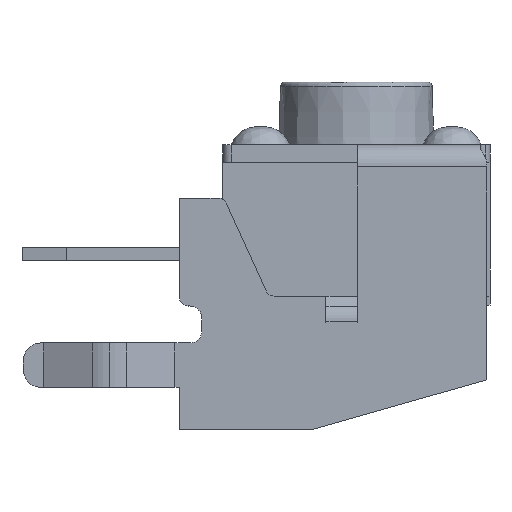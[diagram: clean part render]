
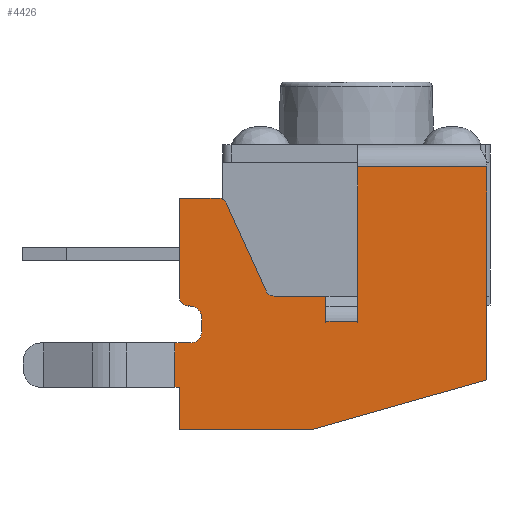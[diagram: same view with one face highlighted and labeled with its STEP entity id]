
A CAD part, front view. The second image highlights one B-rep face of the part: STEP entity #4426.
In plain terms, the highlighted planar face has unit normal (0, -1, 0).
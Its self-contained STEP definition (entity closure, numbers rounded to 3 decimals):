
#342=DIRECTION('',(-1.,0.,0.));
#343=VECTOR('',#342,2.9);
#344=CARTESIAN_POINT('',(-23.172,13.277,1.1));
#345=LINE('',#344,#343);
#390=DIRECTION('',(0.,0.,1.));
#391=VECTOR('',#390,4.779);
#392=CARTESIAN_POINT('',(-23.172,13.277,-3.679));
#393=LINE('',#392,#391);
#445=DIRECTION('',(0.,0.,1.));
#446=VECTOR('',#445,1.);
#447=CARTESIAN_POINT('',(-30.171,13.277,-3.849));
#448=LINE('',#447,#446);
#449=DIRECTION('',(1.,0.,0.));
#450=VECTOR('',#449,0.35);
#451=CARTESIAN_POINT('',(-30.171,13.277,-2.849));
#452=LINE('',#451,#450);
#453=CARTESIAN_POINT('',(-29.822,13.277,-2.599));
#454=DIRECTION('',(0.,-1.,0.));
#455=DIRECTION('',(0.,0.,-1.));
#456=AXIS2_PLACEMENT_3D('',#453,#454,#455);
#458=CARTESIAN_POINT('',(-29.84,13.277,-2.288));
#459=DIRECTION('',(0.,-1.,0.));
#460=DIRECTION('',(1.,0.,0.));
#461=AXIS2_PLACEMENT_3D('',#458,#459,#460);
#463=CARTESIAN_POINT('',(-29.84,13.277,-2.288));
#464=DIRECTION('',(0.,-1.,0.));
#465=DIRECTION('',(0.,0.,1.));
#466=AXIS2_PLACEMENT_3D('',#463,#464,#465);
#468=CARTESIAN_POINT('',(-29.872,13.277,-1.821));
#469=DIRECTION('',(0.,1.,0.));
#470=DIRECTION('',(0.068,0.,-0.998));
#471=AXIS2_PLACEMENT_3D('',#468,#469,#470);
#473=CARTESIAN_POINT('',(-29.872,13.277,-1.821));
#474=DIRECTION('',(0.,1.,0.));
#475=DIRECTION('',(0.,0.,-1.));
#476=AXIS2_PLACEMENT_3D('',#473,#474,#475);
#478=CARTESIAN_POINT('',(-29.2,13.277,0.201));
#479=DIRECTION('',(0.,1.,0.));
#480=DIRECTION('',(0.,0.,1.));
#481=AXIS2_PLACEMENT_3D('',#478,#479,#480);
#483=DIRECTION('',(0.414,0.,-0.91));
#484=VECTOR('',#483,2.159);
#485=CARTESIAN_POINT('',(-29.018,13.277,0.284));
#486=LINE('',#485,#484);
#487=CARTESIAN_POINT('',(-27.943,13.277,-1.599));
#488=DIRECTION('',(0.,-1.,0.));
#489=DIRECTION('',(-0.91,0.,-0.414));
#490=AXIS2_PLACEMENT_3D('',#487,#488,#489);
#492=DIRECTION('',(-0.962,0.,-0.274));
#493=VECTOR('',#492,4.092);
#494=CARTESIAN_POINT('',(-23.172,13.277,-3.679));
#495=LINE('',#494,#493);
#496=DIRECTION('',(-1.,0.,0.));
#497=VECTOR('',#496,0.1);
#498=CARTESIAN_POINT('',(-30.072,13.277,-3.849));
#499=LINE('',#498,#497);
#530=DIRECTION('',(0.,0.,-1.));
#531=VECTOR('',#530,0.31);
#532=CARTESIAN_POINT('',(-29.572,13.277,-2.288));
#533=LINE('',#532,#531);
#554=DIRECTION('',(0.,0.,-1.));
#555=VECTOR('',#554,2.223);
#556=CARTESIAN_POINT('',(-30.072,13.277,0.401));
#557=LINE('',#556,#555);
#566=DIRECTION('',(-1.,0.,0.));
#567=VECTOR('',#566,0.871);
#568=CARTESIAN_POINT('',(-29.2,13.277,0.401));
#569=LINE('',#568,#567);
#586=DIRECTION('',(-1.,0.,0.));
#587=VECTOR('',#586,1.151);
#588=CARTESIAN_POINT('',(-26.792,13.277,-1.799));
#589=LINE('',#588,#587);
#598=DIRECTION('',(0.,0.,1.));
#599=VECTOR('',#598,0.6);
#600=CARTESIAN_POINT('',(-26.792,13.277,-2.399));
#601=LINE('',#600,#599);
#610=DIRECTION('',(-1.,0.,0.));
#611=VECTOR('',#610,0.01);
#612=CARTESIAN_POINT('',(-26.782,13.277,-2.399));
#613=LINE('',#612,#611);
#622=DIRECTION('',(0.,0.,-1.));
#623=VECTOR('',#622,0.041);
#624=CARTESIAN_POINT('',(-26.782,13.277,-2.358));
#625=LINE('',#624,#623);
#686=DIRECTION('',(0.,0.,1.));
#687=VECTOR('',#686,0.041);
#688=CARTESIAN_POINT('',(-26.082,13.277,-2.399));
#689=LINE('',#688,#687);
#690=DIRECTION('',(-1.,0.,0.));
#691=VECTOR('',#690,0.01);
#692=CARTESIAN_POINT('',(-26.072,13.277,-2.399));
#693=LINE('',#692,#691);
#702=DIRECTION('',(0.,0.,-1.));
#703=VECTOR('',#702,3.499);
#704=CARTESIAN_POINT('',(-26.072,13.277,1.1));
#705=LINE('',#704,#703);
#2156=DIRECTION('',(-1.,0.,0.));
#2157=VECTOR('',#2156,0.7);
#2158=CARTESIAN_POINT('',(-26.082,13.277,
-2.358));
#2159=LINE('',#2158,#2157);
#2450=DIRECTION('',(1.,0.,0.));
#2451=VECTOR('',#2450,2.964);
#2452=CARTESIAN_POINT('',(-30.072,13.277,
-4.799));
#2453=LINE('',#2452,#2451);
#2466=DIRECTION('',(0.,0.,-1.));
#2467=VECTOR('',#2466,0.95);
#2468=CARTESIAN_POINT('',(-30.072,13.277,
-3.849));
#2469=LINE('',#2468,#2467);
#3115=CARTESIAN_POINT('',(-30.171,13.277,
-3.849));
#3116=CARTESIAN_POINT('',(-30.171,13.277,
-2.849));
#3117=VERTEX_POINT('',#3115);
#3118=VERTEX_POINT('',#3116);
#3162=CARTESIAN_POINT('',(-30.072,13.277,
-3.849));
#3164=VERTEX_POINT('',#3162);
#3167=CARTESIAN_POINT('',(-29.822,13.277,
-2.849));
#3168=VERTEX_POINT('',#3167);
#3169=CARTESIAN_POINT('',(-29.572,13.277,
-2.599));
#3170=VERTEX_POINT('',#3169);
#3171=CARTESIAN_POINT('',(-29.572,13.277,
-2.288));
#3172=VERTEX_POINT('',#3171);
#3173=CARTESIAN_POINT('',(-29.84,13.277,
-2.02));
#3174=VERTEX_POINT('',#3173);
#3175=CARTESIAN_POINT('',(-29.858,13.277,
-2.021));
#3176=VERTEX_POINT('',#3175);
#3177=CARTESIAN_POINT('',(-29.872,13.277,
-2.021));
#3178=VERTEX_POINT('',#3177);
#3179=CARTESIAN_POINT('',(-30.072,13.277,
-1.821));
#3180=VERTEX_POINT('',#3179);
#3181=CARTESIAN_POINT('',(-30.072,13.277,
0.401));
#3182=VERTEX_POINT('',#3181);
#3183=CARTESIAN_POINT('',(-29.2,13.277,
0.401));
#3184=VERTEX_POINT('',#3183);
#3185=CARTESIAN_POINT('',(-29.018,13.277,
0.284));
#3186=VERTEX_POINT('',#3185);
#3187=CARTESIAN_POINT('',(-28.125,13.277,
-1.682));
#3188=VERTEX_POINT('',#3187);
#3189=CARTESIAN_POINT('',(-27.943,13.277,
-1.799));
#3190=VERTEX_POINT('',#3189);
#3191=CARTESIAN_POINT('',(-26.792,13.277,
-1.799));
#3192=VERTEX_POINT('',#3191);
#3193=CARTESIAN_POINT('',(-26.072,13.277,1.1));
#3194=CARTESIAN_POINT('',(-26.072,13.277,
-2.399));
#3195=VERTEX_POINT('',#3193);
#3196=VERTEX_POINT('',#3194);
#3197=CARTESIAN_POINT('',(-23.172,13.277,
-3.679));
#3198=CARTESIAN_POINT('',(-23.172,13.277,1.1));
#3199=VERTEX_POINT('',#3197);
#3200=VERTEX_POINT('',#3198);
#3201=CARTESIAN_POINT('',(-27.107,13.277,
-4.799));
#3202=VERTEX_POINT('',#3201);
#3203=CARTESIAN_POINT('',(-30.072,13.277,
-4.799));
#3204=VERTEX_POINT('',#3203);
#3207=CARTESIAN_POINT('',(-26.792,13.277,
-2.399));
#3208=VERTEX_POINT('',#3207);
#3209=CARTESIAN_POINT('',(-26.782,13.277,
-2.399));
#3210=VERTEX_POINT('',#3209);
#3211=CARTESIAN_POINT('',(-26.782,13.277,
-2.358));
#3212=VERTEX_POINT('',#3211);
#3225=CARTESIAN_POINT('',(-26.082,13.277,
-2.358));
#3227=VERTEX_POINT('',#3225);
#3229=CARTESIAN_POINT('',(-26.082,13.277,
-2.399));
#3230=VERTEX_POINT('',#3229);
#4368=CARTESIAN_POINT('',(-26.672,13.277,
-1.849));
#4369=DIRECTION('',(0.,1.,0.));
#4370=DIRECTION('',(0.,0.,-1.));
#4371=AXIS2_PLACEMENT_3D('',#4368,#4369,#4370);
#4372=PLANE('',#4371);
#4374=ORIENTED_EDGE('',*,*,#4373,.T.);
#4376=ORIENTED_EDGE('',*,*,#4375,.T.);
#4378=ORIENTED_EDGE('',*,*,#4377,.T.);
#4380=ORIENTED_EDGE('',*,*,#4379,.F.);
#4382=ORIENTED_EDGE('',*,*,#4381,.T.);
#4384=ORIENTED_EDGE('',*,*,#4383,.T.);
#4386=ORIENTED_EDGE('',*,*,#4385,.T.);
#4388=ORIENTED_EDGE('',*,*,#4387,.T.);
#4390=ORIENTED_EDGE('',*,*,#4389,.F.);
#4392=ORIENTED_EDGE('',*,*,#4391,.F.);
#4394=ORIENTED_EDGE('',*,*,#4393,.T.);
#4396=ORIENTED_EDGE('',*,*,#4395,.T.);
#4398=ORIENTED_EDGE('',*,*,#4397,.T.);
#4400=ORIENTED_EDGE('',*,*,#4399,.F.);
#4402=ORIENTED_EDGE('',*,*,#4401,.F.);
#4404=ORIENTED_EDGE('',*,*,#4403,.F.);
#4406=ORIENTED_EDGE('',*,*,#4405,.F.);
#4408=ORIENTED_EDGE('',*,*,#4407,.F.);
#4410=ORIENTED_EDGE('',*,*,#4409,.F.);
#4412=ORIENTED_EDGE('',*,*,#4411,.F.);
#4414=ORIENTED_EDGE('',*,*,#4413,.F.);
#4415=ORIENTED_EDGE('',*,*,#4157,.F.);
#4416=ORIENTED_EDGE('',*,*,#4287,.F.);
#4418=ORIENTED_EDGE('',*,*,#4417,.T.);
#4420=ORIENTED_EDGE('',*,*,#4419,.F.);
#4422=ORIENTED_EDGE('',*,*,#4421,.F.);
#4423=ORIENTED_EDGE('',*,*,#4358,.T.);
#4424=EDGE_LOOP('',(#4374,#4376,#4378,#4380,#4382,#4384,#4386,#4388,#4390,#4392,
#4394,#4396,#4398,#4400,#4402,#4404,#4406,#4408,#4410,#4412,#4414,#4415,#4416,
#4418,#4420,#4422,#4423));
#4425=FACE_OUTER_BOUND('',#4424,.F.);
#457=CIRCLE('',#456,0.25);
#462=CIRCLE('',#461,0.268);
#467=CIRCLE('',#466,0.268);
#472=CIRCLE('',#471,0.2);
#477=CIRCLE('',#476,0.2);
#482=CIRCLE('',#481,0.2);
#491=CIRCLE('',#490,0.2);
#4157=EDGE_CURVE('',#3200,#3195,#345,.T.);
#4287=EDGE_CURVE('',#3199,#3200,#393,.T.);
#4358=EDGE_CURVE('',#3164,#3117,#499,.T.);
#4373=EDGE_CURVE('',#3117,#3118,#448,.T.);
#4375=EDGE_CURVE('',#3118,#3168,#452,.T.);
#4377=EDGE_CURVE('',#3168,#3170,#457,.T.);
#4379=EDGE_CURVE('',#3172,#3170,#533,.T.);
#4381=EDGE_CURVE('',#3172,#3174,#462,.T.);
#4383=EDGE_CURVE('',#3174,#3176,#467,.T.);
#4385=EDGE_CURVE('',#3176,#3178,#472,.T.);
#4387=EDGE_CURVE('',#3178,#3180,#477,.T.);
#4389=EDGE_CURVE('',#3182,#3180,#557,.T.);
#4391=EDGE_CURVE('',#3184,#3182,#569,.T.);
#4393=EDGE_CURVE('',#3184,#3186,#482,.T.);
#4395=EDGE_CURVE('',#3186,#3188,#486,.T.);
#4397=EDGE_CURVE('',#3188,#3190,#491,.T.);
#4399=EDGE_CURVE('',#3192,#3190,#589,.T.);
#4401=EDGE_CURVE('',#3208,#3192,#601,.T.);
#4403=EDGE_CURVE('',#3210,#3208,#613,.T.);
#4405=EDGE_CURVE('',#3212,#3210,#625,.T.);
#4407=EDGE_CURVE('',#3227,#3212,#2159,.T.);
#4409=EDGE_CURVE('',#3230,#3227,#689,.T.);
#4411=EDGE_CURVE('',#3196,#3230,#693,.T.);
#4413=EDGE_CURVE('',#3195,#3196,#705,.T.);
#4417=EDGE_CURVE('',#3199,#3202,#495,.T.);
#4419=EDGE_CURVE('',#3204,#3202,#2453,.T.);
#4421=EDGE_CURVE('',#3164,#3204,#2469,.T.);
#4426=ADVANCED_FACE('',(#4425),#4372,.F.);
